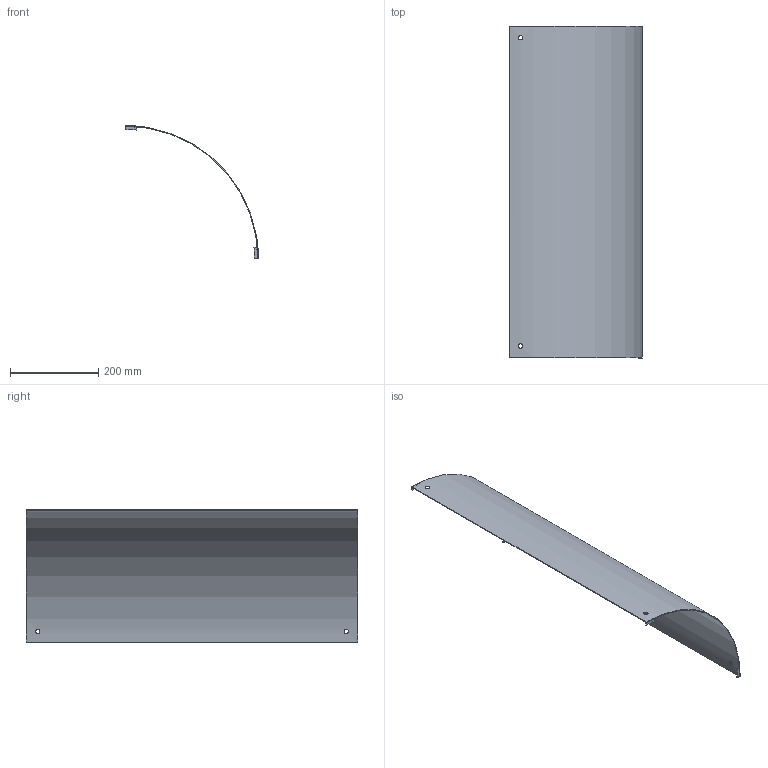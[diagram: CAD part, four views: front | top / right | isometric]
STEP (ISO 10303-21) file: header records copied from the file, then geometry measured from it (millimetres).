
FILE_DESCRIPTION(/* description */ ('','CAx-IF Rec.Pracs.---Representation and Presentation of Product Manufacturing Information (PMI)---4.0---2014-10-13'),/* implementation_level */ '2;1');
FILE_NAME(/* name */ 'Eurostrut_EORC700-90-300_Cover Outside Riser 90 for Cable Ladder ECL.step',/* time_stamp */ '2026-09-10T12:24:03+02:00',/* author */ (''),/* organization */ (''),/* preprocessor_version */ 'ST-DEVELOPER v20.1',/* originating_system */ 'Autodesk Revit 2027 27.2.0.39',/* authorisation */ '');
FILE_SCHEMA (('AP242_MANAGED_MODEL_BASED_3D_ENGINEERING_MIM_LF { 1 0 10303 442 2 1 4 }'));
Length unit declared in the file: millimetre
Products named in the file (3): TopLevelAssembly; Sweep; Joined Solid Geometry
Assembly tree (2 placements, depth 2):
  TopLevelAssembly
    Sweep
    Joined Solid Geometry
Bounding box: 301.5 x 753 x 301.5 mm (x, y, z)
Volume: 534250.1 mm3; surface area: 716588.9 mm2
Topology: 5 solids, 5 shells, 38 faces, 84 edges, 56 vertices
Faces by surface type: plane 20, cylinder 18
Entity records: 1356 total; most frequent: CARTESIAN_POINT 459, DIRECTION 174, ORIENTED_EDGE 168, EDGE_CURVE 84, AXIS2_PLACEMENT_3D 63, VERTEX_POINT 56, LINE 48, VECTOR 48
